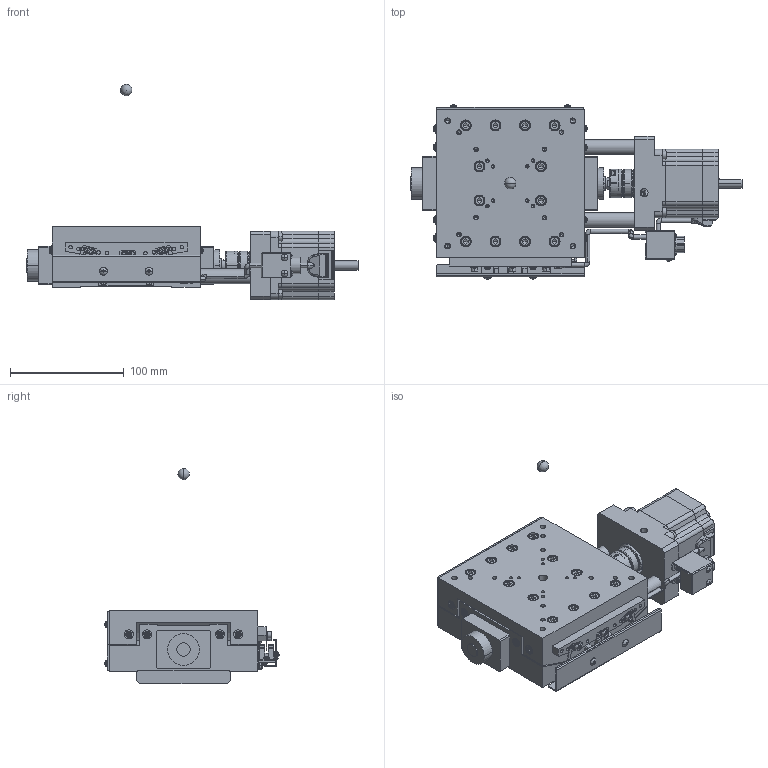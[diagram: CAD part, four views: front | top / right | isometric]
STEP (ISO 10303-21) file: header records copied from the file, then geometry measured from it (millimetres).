
FILE_DESCRIPTION (( 'STEP AP203' ), '1' );
FILE_NAME ('SA13A-RT01-R.STEP', '2019-02-25T04:21:01', ( '' ), ( '' ), 'SwSTEP 2.0', 'SolidWorks 2018', '' );
FILE_SCHEMA (( 'CONFIG_CONTROL_DESIGN' ));
Length unit declared in the file: millimetre
Products named in the file (4): rotation center; SA13A-RT01-R; table; base
Assembly tree (3 placements, depth 2):
  SA13A-RT01-R
    base
    table
    rotation center
Bounding box: 291.5 x 152.87 x 189 mm (x, y, z)
Volume: 1215163.2 mm3; surface area: 195229.1 mm2
Topology: 3 solids, 3 shells, 2926 faces, 7431 edges, 4631 vertices
Faces by surface type: plane 1813, cylinder 693, cone 312, torus 62, sphere 42, bspline 4
Entity records: 90138 total; most frequent: CARTESIAN_POINT 18087, DIRECTION 15340, ORIENTED_EDGE 14640, EDGE_CURVE 7320, AXIS2_PLACEMENT_3D 5253, VECTOR 4834, LINE 4834, VERTEX_POINT 4628
